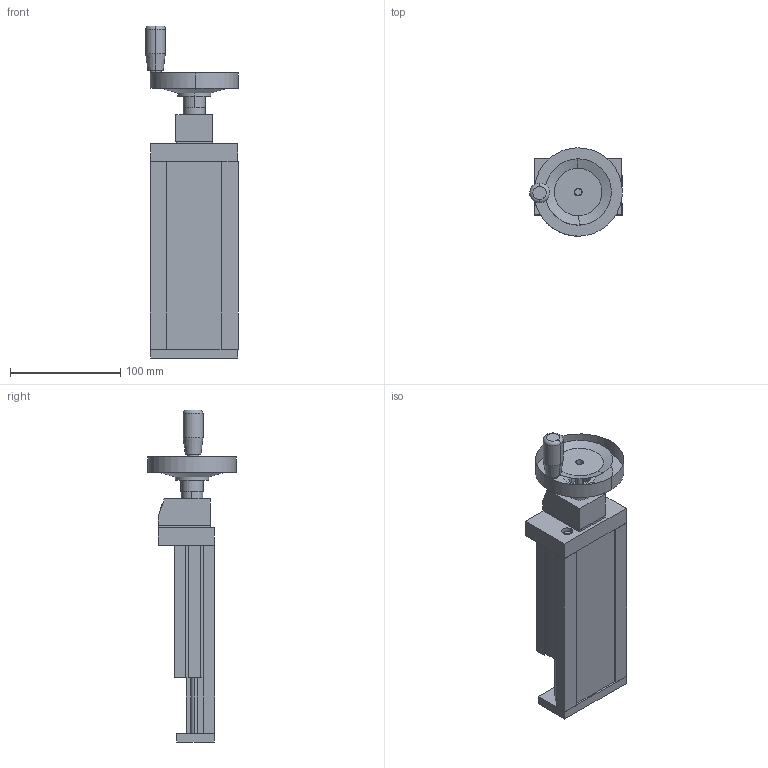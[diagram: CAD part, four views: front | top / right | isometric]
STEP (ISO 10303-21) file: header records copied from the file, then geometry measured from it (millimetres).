
FILE_DESCRIPTION (( 'STEP AP214' ), '1' );
FILE_NAME ('dL 80 digital Handrad Hub 50.STEP', '2007-02-20T10:12:43', ( '' ), ( '' ), 'SwSTEP 2.0', 'SolidWorks 2006040', '' );
FILE_SCHEMA (( 'AUTOMOTIVE_DESIGN' ));
Length unit declared in the file: millimetre
Products named in the file (5): dL 80 digital Handrad Hub 50; Handkurbel d80 dL80-+-D002991_ _PDB_1008114; Zähler DA04-+-D004962_ _Standard; Aussen neu light 80-+-D003976_ _Standard; dL80 neu light-+-D003977_ _DA04 Handrad
Assembly tree (4 placements, depth 2):
  dL 80 digital Handrad Hub 50
    Zähler DA04-+-D004962_ _Standard
    dL80 neu light-+-D003977_ _DA04 Handrad
    Handkurbel d80 dL80-+-D002991_ _PDB_1008114
    Aussen neu light 80-+-D003976_ _Standard
Bounding box: 83.98 x 79.98 x 300.5 mm (x, y, z)
Volume: 551802 mm3; surface area: 139582.2 mm2
Topology: 4 solids, 5 shells, 265 faces, 667 edges, 436 vertices
Faces by surface type: plane 161, cylinder 70, bspline 20, cone 8, torus 6
Entity records: 11288 total; most frequent: CARTESIAN_POINT 3289, ORIENTED_EDGE 1334, DIRECTION 1291, EDGE_CURVE 667, VECTOR 459, LINE 459, VERTEX_POINT 436, AXIS2_PLACEMENT_3D 416
